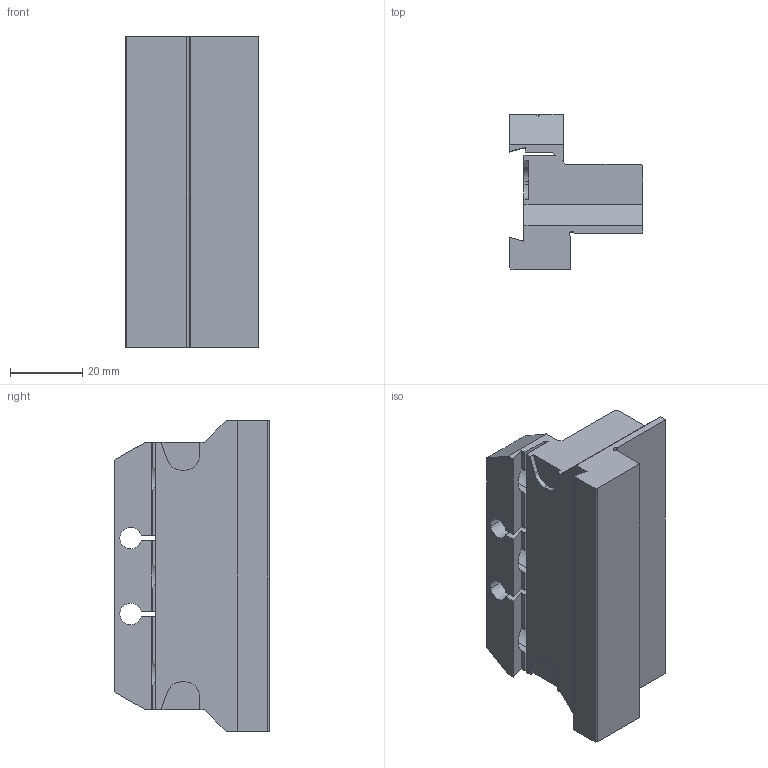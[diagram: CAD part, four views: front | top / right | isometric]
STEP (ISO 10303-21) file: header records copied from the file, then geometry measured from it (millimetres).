
FILE_DESCRIPTION(('CATIA V5 STEP','CAx-IF Rec.Pracs.--- Model Styling and Organization---1.2---2011-12-15'),'2;1');
FILE_NAME('I:\isr\design\admin8\users\weaam_s\2300753D.stp','2018-03-12T10:27:54+00:00',('none'),('none'),'CATIA Version 5 Release 21 SP 5 (IN-10)','CATIA V5 STEP AP214','none');
FILE_SCHEMA(('AUTOMOTIVE_DESIGN { 1 0 10303 214 1 1 1 1 }'));
Length unit declared in the file: millimetre
Products named in the file (1): SGTBU 19-5G
Bounding box: 37 x 42.9 x 86 mm (x, y, z)
Volume: 71540.8 mm3; surface area: 17719.7 mm2
Topology: 1 solids, 1 shells, 76 faces, 255 edges, 172 vertices
Faces by surface type: plane 61, cylinder 15
Entity records: 2929 total; most frequent: CARTESIAN_POINT 682, ORIENTED_EDGE 510, DIRECTION 357, EDGE_CURVE 255, VECTOR 197, LINE 197, VERTEX_POINT 172, AXIS2_PLACEMENT_3D 100
